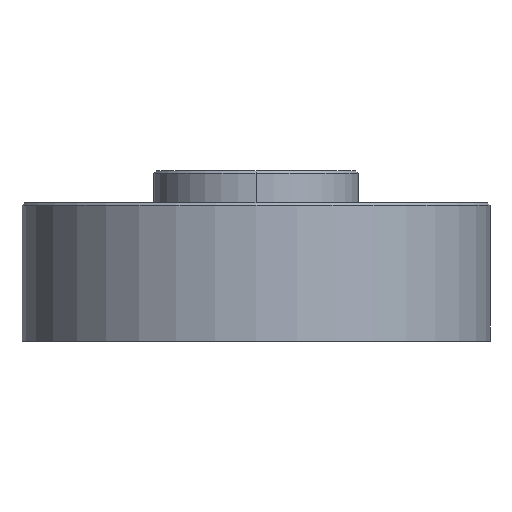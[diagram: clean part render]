
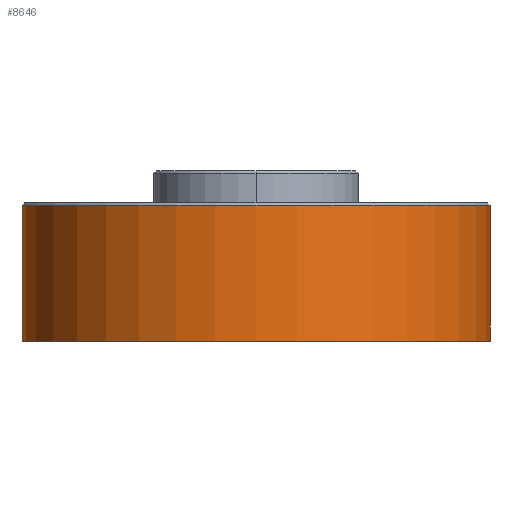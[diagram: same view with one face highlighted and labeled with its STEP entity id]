
A CAD part, left-side view. The second image highlights one B-rep face of the part: STEP entity #8646.
In plain terms, the highlighted cylindrical face has radius 139.649 mm (diameter 279.298 mm), a partial arc.
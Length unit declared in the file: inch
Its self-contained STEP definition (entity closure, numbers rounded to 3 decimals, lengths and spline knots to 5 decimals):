
#2360 = EDGE_CURVE ( 'NONE', #8085, #4546, #10769, .T. ) ;
#3846 = CARTESIAN_POINT ( 'NONE',  ( 0., 5.498, -0.06 ) ) ;
#4546 = VERTEX_POINT ( 'NONE', #11808 ) ;
#4813 = CARTESIAN_POINT ( 'NONE',  ( 0., -5.498, -0.06 ) ) ;
#5626 = FACE_OUTER_BOUND ( 'NONE', #8541, .T. ) ;
#5628 = CYLINDRICAL_SURFACE ( 'NONE', #5629, 5.498 ) ;
#5629 = AXIS2_PLACEMENT_3D ( 'NONE', #5630, #5631, #5632 ) ;
#5630 = CARTESIAN_POINT ( 'NONE',  ( 0., 0., -0.06 ) ) ;
#5631 = DIRECTION ( 'NONE',  ( 0., 0., -1. ) ) ;
#5632 = DIRECTION ( 'NONE',  ( 0., 1., 0. ) ) ;
#6176 = CARTESIAN_POINT ( 'NONE',  ( 0., -5.498, -3.249 ) ) ;
#6290 = LINE ( 'NONE', #6291, #6292 ) ;
#6291 = CARTESIAN_POINT ( 'NONE',  ( 0., -5.498, -0.06 ) ) ;
#6292 = VECTOR ( 'NONE', #6293, 39.37008 ) ;
#6293 = DIRECTION ( 'NONE',  ( 0., 0., -1. ) ) ;
#6320 = CIRCLE ( 'NONE', #6321, 5.498 ) ;
#6321 = AXIS2_PLACEMENT_3D ( 'NONE', #6322, #6323, #6324 ) ;
#6322 = CARTESIAN_POINT ( 'NONE',  ( 0., 0., -0.06 ) ) ;
#6323 = DIRECTION ( 'NONE',  ( 0., 0., 1. ) ) ;
#6324 = DIRECTION ( 'NONE',  ( -1., 0., 0. ) ) ;
#6797 = CIRCLE ( 'NONE', #6798, 5.498 ) ;
#6798 = AXIS2_PLACEMENT_3D ( 'NONE', #6799, #6800, #6801 ) ;
#6799 = CARTESIAN_POINT ( 'NONE',  ( 0., 0., -3.249 ) ) ;
#6800 = DIRECTION ( 'NONE',  ( 0., 0., 1. ) ) ;
#6801 = DIRECTION ( 'NONE',  ( 0., 1., 0. ) ) ;
#8085 = VERTEX_POINT ( 'NONE', #3846 ) ;
#8323 = VERTEX_POINT ( 'NONE', #4813 ) ;
#8425 = ORIENTED_EDGE ( 'NONE', *, *, #8919, .F. ) ;
#8541 = EDGE_LOOP ( 'NONE', ( #8425, #9012, #8781, #8669 ) ) ;
#8646 = ADVANCED_FACE ( 'NONE', ( #5626 ), #5628, .T. ) ;
#8669 = ORIENTED_EDGE ( 'NONE', *, *, #9092, .T. ) ;
#8781 = ORIENTED_EDGE ( 'NONE', *, *, #2360, .T. ) ;
#8873 = VERTEX_POINT ( 'NONE', #6176 ) ;
#8919 = EDGE_CURVE ( 'NONE', #8323, #8873, #6290, .T. ) ;
#8930 = EDGE_CURVE ( 'NONE', #8085, #8323, #6320, .T. ) ;
#9012 = ORIENTED_EDGE ( 'NONE', *, *, #8930, .F. ) ;
#9092 = EDGE_CURVE ( 'NONE', #4546, #8873, #6797, .T. ) ;
#10769 = LINE ( 'NONE', #10770, #10771 ) ;
#10770 = CARTESIAN_POINT ( 'NONE',  ( 0., 5.498, -0.06 ) ) ;
#10771 = VECTOR ( 'NONE', #10772, 39.37008 ) ;
#10772 = DIRECTION ( 'NONE',  ( 0., 0., -1. ) ) ;
#11808 = CARTESIAN_POINT ( 'NONE',  ( 0., 5.498, -3.249 ) ) ;
